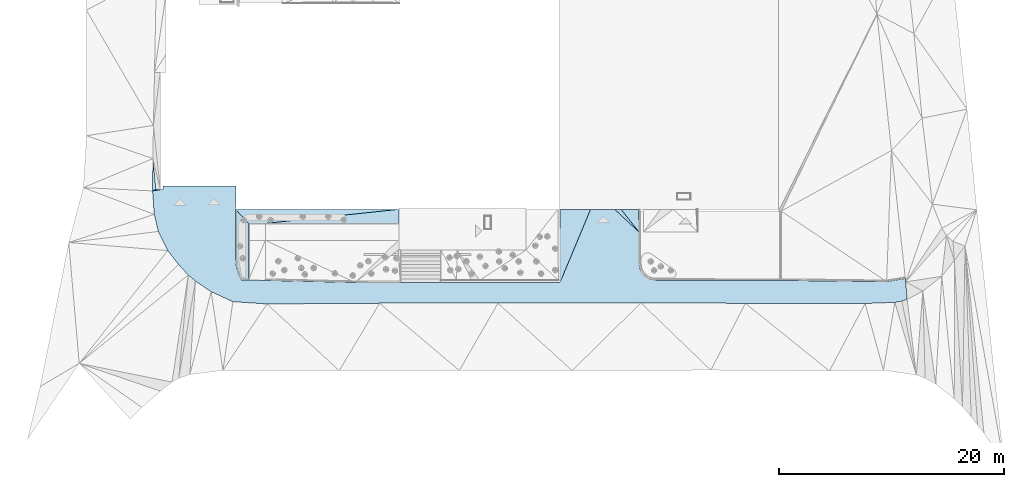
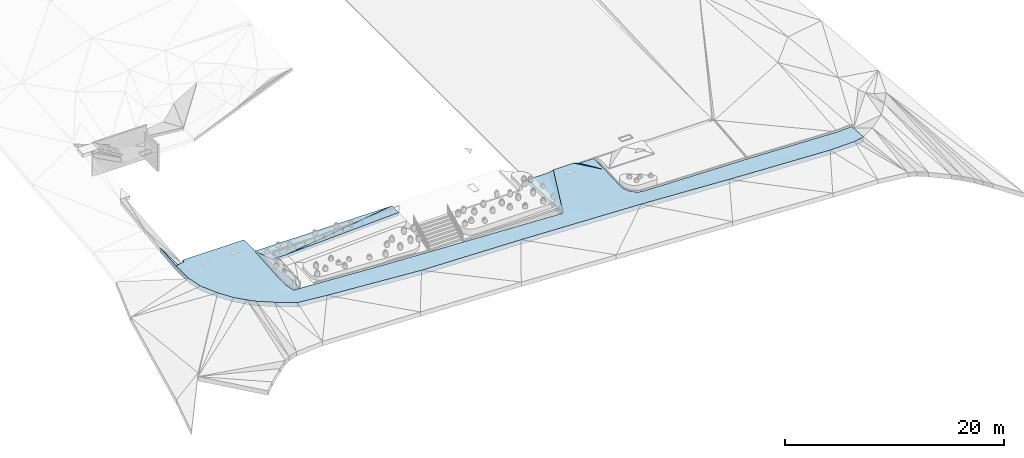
# One storey, part 14 of 23: 2 slabs.
"""IFC2X3 building model written with IfcOpenShell, lengths in metres."""

from ifc_helpers import new_model, entity, si_unit, converted_unit, direction, origin, place, context, subcontext, project, spatial, faceted_brep, material, material_list, type_object, element, save


model = new_model("IFC2X3")

# Units and contexts
model_context = context("Model", 3, precision=1e-05, world=origin(), true_north=direction((0.7716245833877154, 0.6360782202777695)))
body_context = subcontext(model_context, "Body", "Model", "MODEL_VIEW")
ifc_project = project(units=[si_unit("LENGTHUNIT", "METRE"), converted_unit("PLANEANGLEUNIT", "DEGREE", entity("IfcPlaneAngleMeasure", 0.017453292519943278), si_unit("PLANEANGLEUNIT", "RADIAN"), dimensions=[0, 0, 0, 0, 0, 0, 0]), si_unit("AREAUNIT", "SQUARE_METRE")], contexts=[model_context])

# Site, building, storey
site_placement = place(None, origin())
site = spatial("IfcSite", under=ifc_project, at=site_placement, Name="Default", CompositionType="ELEMENT")
building_placement = place(site_placement, origin())
building = spatial("IfcBuilding", under=site, at=building_placement, Name="<Building Name>", CompositionType="ELEMENT")
storey_placement = place(building_placement, origin())
storey = spatial("IfcBuildingStorey", under=building, at=storey_placement, Name="00 - HAV", CompositionType="ELEMENT", Elevation=0.0)

# Slabs
ifc_material_1 = material(Name="Site - Aspahlt - Pulverasfalt")
ifc_material_2 = material(Name="A_Default_Building_Part")
ifc_material_3 = material(Name="Site - Gravel - Stabilitet grus")
ifc_material_4 = material(Name="Site - Gravel - Bunnsikringsgrus")
ifc_material_list_1 = material_list([ifc_material_1, ifc_material_2, ifc_material_3, ifc_material_4])
slab_type_1 = type_object("IfcSlabType", Name="Floor:761 Asfalt - Gangarealer", PredefinedType="FLOOR")
slab_1_placement = place(storey_placement, origin())
element("IfcSlab", 1, at=slab_1_placement, inside=storey, type_object=slab_type_1, material=ifc_material_list_1, Name="Floor:761 Asfalt - Gangarealer", ObjectType="Floor:761 Asfalt - Gangarealer", PredefinedType="FLOOR", context=body_context, shape_type="Brep", body=[
    faceted_brep([(258.5774475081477, 53.19359115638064, 30.512000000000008), (258.5774475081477, 46.710732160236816, 30.690291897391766), (258.5774475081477, 46.710732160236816, 31.190291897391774), (258.5774475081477, 53.19359115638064, 31.012000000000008), (261.2809782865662, 53.193591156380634, 30.640000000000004), (260.7068498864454, 53.193591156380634, 30.48251479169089), (260.7068498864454, 53.193591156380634, 30.982514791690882), (261.2809782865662, 53.193591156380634, 31.139999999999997), (263.4158263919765, 53.19359115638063, 31.139999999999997), (263.98909597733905, 53.19359115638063, 30.937066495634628), (265.5529070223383, 53.19359115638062, 30.90987334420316), (265.5529070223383, 53.19359115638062, 30.40987334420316), (263.98909597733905, 53.19359115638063, 30.437066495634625), (263.4158263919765, 53.19359115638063, 30.64), (277.93141178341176, 46.883054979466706, 29.799999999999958), (267.06103938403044, 46.891797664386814, 30.02871926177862), (267.06103938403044, 46.891797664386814, 30.528719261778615), (277.93141178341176, 46.883054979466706, 30.29999999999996), (287.56061446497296, 46.77280201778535, 29.57), (287.56061446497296, 46.77280201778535, 30.07), (289.2292083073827, 47.05967235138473, 29.409999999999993), (289.2292083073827, 47.05967235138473, 29.909999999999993), (289.38313046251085, 45.19076679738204, 29.34), (289.38313046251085, 45.19076679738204, 29.84), (288.9214053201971, 45.043424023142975, 29.349999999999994), (288.9214053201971, 45.043424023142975, 29.849999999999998), (288.2921113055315, 44.92642384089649, 29.35), (288.2921113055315, 44.92642384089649, 29.849999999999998), (285.6476137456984, 44.832975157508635, 29.369999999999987), (285.6476137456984, 44.832975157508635, 29.86999999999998), (275.0217588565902, 44.84739296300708, 29.819999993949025), (275.0217588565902, 44.84739296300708, 30.31999999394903), (265.7481317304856, 44.88788903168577, 30.279999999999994), (265.7481317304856, 44.88788903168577, 30.77999999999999), (253.0580648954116, 44.85953958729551, 30.769999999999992), (253.0580648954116, 44.85953958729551, 31.269999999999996), (242.55118701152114, 44.85539743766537, 31.03999999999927), (242.55118701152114, 44.85539743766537, 31.53999999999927), (232.54972667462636, 44.788381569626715, 32.289999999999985), (232.54972667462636, 44.788381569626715, 31.78999999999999), (229.52910989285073, 44.99398861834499, 31.90999999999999), (229.52910989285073, 44.99398861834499, 32.40999999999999), (227.59658962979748, 45.87623882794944, 32.08999999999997), (227.59658962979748, 45.87623882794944, 32.58999999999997), (227.42324594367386, 45.994158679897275, 32.59374999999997), (227.2499022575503, 46.11207853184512, 32.597499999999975), (227.07655857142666, 46.22999838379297, 32.60124999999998), (226.9032148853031, 46.34791823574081, 32.60499999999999), (226.7298711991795, 46.465838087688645, 32.608749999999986), (226.55652751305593, 46.58375793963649, 32.61249999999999), (226.3681071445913, 46.71193394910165, 32.61657615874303), (226.2098401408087, 46.81959764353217, 32.62), (226.2098401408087, 46.81959764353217, 32.120000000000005), (226.3831838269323, 46.70167779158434, 32.11625), (226.55652751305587, 46.58375793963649, 32.1125), (226.7298711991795, 46.465838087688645, 32.10874999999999), (226.9032148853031, 46.34791823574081, 32.10499999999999), (227.0765585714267, 46.22999838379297, 32.101249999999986), (227.2499022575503, 46.11207853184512, 32.097499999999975), (227.4383226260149, 45.983902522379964, 32.09342384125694), (225.56615153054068, 47.36463431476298, 32.16), (225.56615153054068, 47.36463431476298, 32.66), (224.697957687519, 48.30778830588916, 32.160000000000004), (224.697957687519, 48.30778830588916, 32.66000000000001), (223.74290142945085, 49.52924953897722, 32.28), (223.74290142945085, 49.52924953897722, 32.779999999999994), (240.3702786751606, 46.6992626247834, 31.50999999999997), (230.25794446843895, 46.93705425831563, 31.874074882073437), (230.25794446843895, 46.93705425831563, 32.37407488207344), (240.3702786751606, 46.6992626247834, 32.00999999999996), (229.76792444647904, 48.855397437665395, 32.25218759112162), (229.76792444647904, 53.032163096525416, 32.587176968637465), (229.76792444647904, 53.46525555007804, 32.6), (229.76792444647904, 53.46525555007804, 33.1), (229.76792444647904, 53.032163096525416, 33.087176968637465), (229.76792444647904, 48.855397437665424, 32.75218759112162), (229.8446483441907, 48.306754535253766, 32.647156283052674), (229.8663514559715, 47.97350844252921, 32.08413749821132), (229.84174671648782, 48.193981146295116, 32.126150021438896), (229.8171379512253, 48.414452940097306, 32.168162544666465), (229.79320001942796, 48.62893900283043, 32.20903432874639), (230.06214796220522, 47.455281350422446, 31.97910619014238), (229.9213722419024, 47.75811163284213, 32.542124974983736), (230.0032326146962, 47.558421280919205, 32.501253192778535), (230.08965835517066, 47.34758294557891, 32.45809992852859), (230.17151740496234, 47.14789221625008, 32.41722814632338), (229.8062870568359, 48.58107617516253, 32.699671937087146), (230.0132005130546, 47.58483850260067, 32.005364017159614), (230.16004688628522, 47.196167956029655, 31.926590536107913), (229.86383097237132, 48.169594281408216, 32.62089845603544), (227.48898329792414, 47.551474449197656, 32.66752187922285), (229.30117844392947, 46.555687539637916, 32.451700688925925), (228.79416511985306, 46.66790255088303, 32.51348754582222), (228.7888349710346, 46.50420802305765, 32.50208753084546), (228.43487140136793, 47.07579126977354, 32.57857427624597), (228.0523409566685, 47.047817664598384, 32.59871750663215), (228.05986421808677, 47.28723700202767, 32.621071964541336), (228.65814539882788, 47.024628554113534, 32.55743815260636), (228.6774916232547, 46.768936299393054, 32.53207358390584), (228.30235043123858, 47.58945328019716, 32.64293497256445), (228.1883138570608, 47.78945317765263, 32.67272186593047), (230.0850903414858, 47.35873017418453, 32.46038141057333), (229.88301227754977, 48.03243365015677, 32.59464062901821), (265.29996396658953, 45.00181672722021, 30.80564324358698), (264.85179620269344, 45.11574442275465, 30.831286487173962), (264.4036284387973, 45.229672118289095, 30.85692973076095), (263.9554606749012, 45.34359981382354, 30.882572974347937), (263.50729291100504, 45.45752750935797, 30.90821621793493), (263.0591251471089, 45.571455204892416, 30.933859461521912), (262.6109573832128, 45.68538290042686, 30.959502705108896), (262.16278961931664, 45.799310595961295, 30.98514594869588), (261.71462185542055, 45.91323829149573, 31.010789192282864), (261.26645409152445, 46.02716598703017, 31.036432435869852), (260.81828632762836, 46.141093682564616, 31.062075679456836), (260.3701185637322, 46.25502137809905, 31.087718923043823), (259.9219507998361, 46.368949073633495, 31.11336216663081), (259.47378303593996, 46.48287676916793, 31.139005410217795), (259.02561527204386, 46.59680446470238, 31.164648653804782), (266.40458555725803, 45.8898433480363, 30.65435963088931), (228.48878128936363, 48.12352063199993, 32.20466571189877), (228.55335565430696, 46.257605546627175, 32.01237419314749), (228.21280436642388, 46.89547433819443, 32.076617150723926), (229.96425172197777, 47.714395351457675, 32.031621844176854), (227.95253354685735, 47.66284905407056, 32.166476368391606), (228.18260408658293, 47.62908921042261, 32.15332134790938), (228.4305280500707, 46.76733662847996, 32.051547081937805), (228.80038523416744, 46.76965361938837, 32.02145892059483), (228.93679435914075, 46.56859258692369, 31.9920483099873), (228.47392060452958, 47.36107184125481, 32.10655539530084), (228.37386620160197, 47.147275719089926, 32.08966017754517), (228.227312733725, 47.497268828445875, 32.13577783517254), (259.02561527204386, 46.59680446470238, 30.664648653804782), (259.47378303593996, 46.48287676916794, 30.6390054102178), (259.9219507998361, 46.368949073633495, 30.61336216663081), (260.3701185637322, 46.25502137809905, 30.58771892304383), (260.81828632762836, 46.141093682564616, 30.562075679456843), (261.26645409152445, 46.02716598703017, 30.536432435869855), (261.71462185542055, 45.91323829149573, 30.510789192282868), (262.16278961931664, 45.799310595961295, 30.485145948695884), (262.6109573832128, 45.68538290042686, 30.459502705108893), (263.0591251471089, 45.571455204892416, 30.433859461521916), (263.50729291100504, 45.45752750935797, 30.40821621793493), (263.9554606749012, 45.34359981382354, 30.38257297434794), (264.4036284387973, 45.229672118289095, 30.356929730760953), (264.8517962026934, 45.11574442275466, 30.33128648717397), (265.29996396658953, 45.00181672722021, 30.30564324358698), (266.40458555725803, 45.8898433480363, 30.15435963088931), (223.3179244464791, 50.398601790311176, 32.28511484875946), (223.3179244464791, 50.398601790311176, 32.78511484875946), (222.91203232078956, 51.228913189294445, 32.79), (222.91203232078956, 51.228913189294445, 32.28999999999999), (222.54622752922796, 52.74172079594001, 32.350000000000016), (222.54622752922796, 52.74172079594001, 32.850000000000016), (222.39856030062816, 54.82313723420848, 32.53999999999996), (222.39856030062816, 54.82313723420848, 33.03999999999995), (222.4266936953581, 57.69745602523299, 32.78), (222.4266936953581, 57.69745602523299, 33.28), (222.6918950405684, 54.972793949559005, 32.5), (222.6918950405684, 54.972793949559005, 33.0), (223.3179244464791, 55.25779394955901, 32.6), (223.3179244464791, 54.972793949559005, 32.599999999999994), (223.3179244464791, 54.972793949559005, 33.1), (223.3179244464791, 55.25779394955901, 33.1), (229.81919729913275, 55.25779394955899, 32.6), (229.81919729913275, 55.25779394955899, 33.1), (229.8209588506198, 53.46525555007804, 32.6), (229.8209588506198, 53.46525555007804, 33.1), (265.5877261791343, 51.19155733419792, 30.400000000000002), (265.5877261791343, 51.19155733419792, 30.900000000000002), (265.562245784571, 51.19155265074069, 30.37010664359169), (265.562245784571, 51.19155265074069, 30.87010664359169), (265.562245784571, 48.391797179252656, 30.25533562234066), (265.562245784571, 48.39179717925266, 30.755335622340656), (265.6248913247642, 48.0363174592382, 30.720423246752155), (265.65260854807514, 47.87903713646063, 30.204976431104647), (265.6316254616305, 47.9980825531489, 30.2166682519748), (266.54835218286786, 46.98257279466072, 30.57907845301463), (266.70561016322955, 46.95472908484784, 30.063631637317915), (266.6765226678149, 46.95987540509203, 30.066488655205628), (266.0011591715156, 47.331563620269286, 30.642027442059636), (266.0011591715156, 47.331563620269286, 30.142027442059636), (265.91402031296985, 47.468431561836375, 30.157764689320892), (265.60742716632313, 48.13541715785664, 30.230156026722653), (265.5864464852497, 48.25446344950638, 30.7418478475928), (265.6106471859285, 48.117129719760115, 30.728360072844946), (265.65260854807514, 47.87903713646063, 30.704976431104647), (265.7397462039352, 47.74216875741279, 30.689239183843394), (265.8268838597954, 47.60530037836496, 30.67350193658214), (265.8268838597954, 47.60530037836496, 30.17350193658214), (265.73974259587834, 47.742167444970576, 30.189239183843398), (265.9140203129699, 47.46843156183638, 30.657764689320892), (266.8046957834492, 46.93718522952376, 30.55389885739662), (266.93286714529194, 46.91449024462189, 30.541309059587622), (266.6765226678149, 46.95987540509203, 30.566488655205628), (266.1379574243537, 47.24431591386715, 30.626290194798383), (266.2747556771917, 47.157068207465, 30.610552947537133), (266.2747556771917, 47.157068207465, 30.110552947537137), (266.93286714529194, 46.91449024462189, 30.041309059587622), (266.80469490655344, 46.93718282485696, 30.053898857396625), (266.1379569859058, 47.24431471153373, 30.126290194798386), (266.4115526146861, 47.06981689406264, 30.594815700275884), (265.5864464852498, 48.25446344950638, 30.241847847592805), (265.6316254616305, 47.99808255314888, 30.716668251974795), (266.54835218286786, 46.98257279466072, 30.07907845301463), (266.4115526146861, 47.06981689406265, 30.09481570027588), (261.8207485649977, 47.491313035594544, 30.988325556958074), (264.98122676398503, 46.16088974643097, 30.754575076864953), (265.2766962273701, 46.08497759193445, 30.73425455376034), (263.61029531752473, 46.713194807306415, 30.84867800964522), (262.7405013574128, 47.04318083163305, 30.91436045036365), (262.9704620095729, 46.91982703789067, 30.896723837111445), (265.79091383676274, 46.07618874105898, 30.692102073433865), (263.2795388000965, 46.81054994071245, 30.873512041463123), (262.32975739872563, 47.333129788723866, 30.948504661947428), (262.7502236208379, 47.253218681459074, 30.916337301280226), (264.45545045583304, 46.385244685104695, 30.788282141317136), (264.7045919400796, 46.266597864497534, 30.77242564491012), (266.09850378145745, 46.0353651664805, 30.669183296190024), (264.21789553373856, 46.51264201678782, 30.803831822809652), (263.89411440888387, 46.60291864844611, 30.82789780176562), (261.8207485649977, 47.49131303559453, 30.488325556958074), (265.2766962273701, 46.084977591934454, 30.23425455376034), (264.98122676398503, 46.160889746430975, 30.25457507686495), (263.61029531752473, 46.713194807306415, 30.34867800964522), (262.9704620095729, 46.91982703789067, 30.39672383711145), (262.7405013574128, 47.04318083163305, 30.41436045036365), (265.79091383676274, 46.07618874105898, 30.19210207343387), (263.2795388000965, 46.81054994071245, 30.373512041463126), (262.7502236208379, 47.25321868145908, 30.416337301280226), (262.32975739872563, 47.33312978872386, 30.44850466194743), (264.45545045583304, 46.385244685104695, 30.288282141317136), (264.7045919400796, 46.266597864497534, 30.27242564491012), (266.0985037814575, 46.0353651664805, 30.169183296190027), (265.6106471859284, 48.117129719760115, 30.228360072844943), (264.21789553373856, 46.51264201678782, 30.303831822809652), (263.89411440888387, 46.602918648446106, 30.327897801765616)], [[[0, 1, 2, 3]], [[4, 5, 0, 3, 6, 7, 8, 9, 10, 11, 12, 13]], [[14, 15, 16, 17]], [[18, 14, 17, 19]], [[20, 18, 19, 21]], [[22, 20, 21, 23]], [[24, 22, 23, 25]], [[26, 24, 25, 27]], [[28, 26, 27, 29]], [[30, 28, 29, 31]], [[32, 30, 31, 33]], [[34, 32, 33, 35]], [[36, 34, 35, 37]], [[36, 37, 38, 39]], [[40, 39, 38, 41]], [[42, 40, 41, 43]], [[43, 44, 45, 46, 47, 48, 49, 50, 51, 52, 53, 54, 55, 56, 57, 58, 59, 42]], [[60, 52, 51, 61]], [[62, 60, 61, 63]], [[64, 62, 63, 65]], [[66, 67, 68, 69]], [[2, 1, 66, 69]], [[70, 71, 72, 73, 74, 75]], [[76, 77, 78]], [[75, 79, 80]], [[81, 82, 83]], [[67, 84, 85]], [[79, 75, 86]], [[82, 81, 87]], [[84, 67, 88]], [[77, 76, 89]], [[61, 51, 90, 75]], [[41, 68, 91, 43]], [[41, 38, 68]], [[63, 61, 75]], [[92, 85, 84]], [[68, 85, 93]], [[47, 94, 95]], [[93, 43, 91, 68]], [[96, 48, 95]], [[83, 97, 98]], [[45, 92, 98]], [[96, 99, 49]], [[45, 44, 92]], [[100, 90, 50]], [[99, 50, 49]], [[94, 47, 46]], [[96, 95, 89]], [[100, 75, 90]], [[90, 51, 50]], [[93, 85, 92]], [[92, 101, 98]], [[93, 92, 44]], [[43, 93, 44]], [[97, 83, 82]], [[98, 101, 83]], [[94, 46, 97]], [[46, 45, 98]], [[97, 82, 94]], [[98, 97, 46]], [[82, 102, 94]], [[47, 95, 48]], [[94, 102, 95]], [[95, 102, 89]], [[89, 76, 96]], [[99, 96, 76]], [[49, 48, 96]], [[76, 86, 99]], [[99, 86, 100]], [[99, 100, 50]], [[75, 100, 86]], [[69, 68, 38]], [[37, 69, 38]], [[69, 37, 35]], [[35, 33, 103, 104, 105, 106, 107, 108, 109, 110, 111, 112, 113, 114, 115, 116, 117, 2]], [[31, 29, 17]], [[19, 27, 25]], [[29, 27, 19]], [[31, 16, 118, 33]], [[25, 23, 21]], [[69, 35, 2]], [[16, 31, 17]], [[25, 21, 19]], [[17, 29, 19]], [[60, 70, 119, 52]], [[40, 42, 120, 67]], [[67, 39, 40]], [[70, 60, 62]], [[87, 121, 122]], [[80, 123, 70]], [[124, 123, 80]], [[120, 42, 59]], [[125, 81, 126]], [[120, 59, 127]], [[55, 128, 129]], [[124, 79, 130]], [[80, 79, 124]], [[126, 127, 59]], [[130, 54, 124]], [[67, 127, 88]], [[123, 52, 119, 70]], [[53, 124, 54]], [[53, 52, 123]], [[53, 123, 124]], [[55, 54, 130]], [[55, 130, 128]], [[77, 128, 78]], [[129, 121, 56]], [[130, 79, 78]], [[129, 128, 77]], [[78, 128, 130]], [[57, 121, 125]], [[56, 55, 129]], [[57, 56, 121]], [[129, 77, 122]], [[126, 58, 125]], [[121, 129, 122]], [[87, 81, 125]], [[87, 125, 121]], [[125, 58, 57]], [[58, 126, 59]], [[126, 81, 88]], [[120, 127, 67]], [[88, 127, 126]], [[39, 67, 66]], [[39, 66, 36]], [[34, 36, 66]], [[34, 1, 131, 132, 133, 134, 135, 136, 137, 138, 139, 140, 141, 142, 143, 144, 145, 32]], [[14, 28, 30]], [[24, 26, 18]], [[18, 26, 28]], [[30, 32, 146, 15]], [[20, 22, 24]], [[1, 34, 66]], [[14, 30, 15]], [[18, 20, 24]], [[18, 28, 14]], [[147, 64, 65, 148, 149, 150]], [[151, 150, 149, 152]], [[153, 151, 152, 154]], [[155, 153, 154, 156]], [[157, 155, 156, 158]], [[159, 160, 161, 162]], [[163, 159, 162, 164]], [[165, 163, 164, 166]], [[72, 165, 166, 73]], [[63, 74, 65]], [[63, 75, 74]], [[74, 73, 161]], [[64, 71, 62]], [[71, 70, 62]], [[160, 72, 71]], [[162, 161, 73, 166, 164]], [[163, 165, 72, 160, 159]], [[160, 157, 158, 161]], [[154, 161, 158]], [[161, 154, 152]], [[156, 154, 158]], [[161, 152, 149]], [[74, 161, 149]], [[65, 74, 149, 148]], [[157, 160, 153]], [[151, 153, 160]], [[157, 153, 155]], [[150, 151, 160]], [[150, 160, 71]], [[147, 150, 71, 64]], [[167, 11, 10, 168]], [[6, 3, 2]], [[1, 0, 5]], [[2, 7, 6]], [[5, 4, 1]], [[169, 167, 168, 170]], [[171, 169, 170, 172]], [[173, 174, 175]], [[176, 177, 178]], [[179, 180, 181]], [[182, 172, 183, 184]], [[185, 186, 174]], [[186, 187, 188]], [[186, 188, 189]], [[188, 187, 190]], [[15, 191, 192]], [[177, 176, 193]], [[179, 194, 180]], [[195, 196, 194]], [[191, 15, 197, 198]], [[194, 196, 199]], [[196, 195, 200]], [[172, 182, 201]], [[174, 173, 202]], [[176, 203, 204]], [[170, 8, 7]], [[170, 10, 9]], [[4, 13, 169]], [[12, 11, 169]], [[7, 2, 205, 172]], [[10, 170, 168]], [[8, 170, 9]], [[206, 207, 176]], [[208, 112, 111]], [[106, 206, 107]], [[185, 209, 210]], [[209, 114, 210]], [[176, 200, 206]], [[207, 105, 211]], [[112, 208, 212]], [[213, 116, 214]], [[194, 215, 195]], [[216, 108, 107]], [[216, 215, 108]], [[210, 114, 113]], [[186, 210, 212]], [[211, 104, 217]], [[216, 200, 195]], [[217, 191, 211]], [[214, 116, 115]], [[183, 172, 205]], [[214, 184, 213]], [[209, 214, 115]], [[209, 202, 214]], [[216, 107, 206]], [[112, 212, 113]], [[109, 218, 110]], [[215, 216, 195]], [[218, 194, 179]], [[218, 109, 215]], [[187, 208, 190]], [[109, 108, 215]], [[186, 212, 187]], [[219, 190, 208]], [[212, 208, 187]], [[111, 219, 208]], [[206, 106, 207]], [[219, 110, 218]], [[216, 206, 200]], [[207, 106, 105]], [[207, 193, 176]], [[105, 104, 211]], [[211, 193, 207]], [[191, 193, 211]], [[104, 103, 217]], [[217, 118, 192]], [[103, 118, 217]], [[212, 210, 113]], [[185, 210, 186]], [[194, 218, 215]], [[115, 114, 209]], [[117, 205, 2]], [[202, 209, 185]], [[205, 213, 183]], [[117, 116, 213]], [[213, 184, 183]], [[117, 213, 205]], [[192, 191, 217]], [[214, 202, 173]], [[179, 190, 219]], [[110, 219, 111]], [[179, 219, 218]], [[118, 103, 33]], [[16, 192, 118]], [[4, 171, 220, 1]], [[167, 169, 11]], [[12, 169, 13]], [[203, 221, 222]], [[137, 136, 223]], [[141, 222, 142]], [[224, 225, 174]], [[224, 134, 225]], [[222, 204, 203]], [[226, 143, 221]], [[227, 223, 136]], [[228, 132, 229]], [[196, 230, 199]], [[141, 140, 231]], [[140, 230, 231]], [[135, 134, 224]], [[227, 224, 189]], [[232, 144, 226]], [[196, 204, 231]], [[226, 198, 232]], [[133, 132, 228]], [[220, 171, 201]], [[229, 233, 228]], [[133, 228, 225]], [[228, 175, 225]], [[222, 141, 231]], [[135, 227, 136]], [[138, 234, 139]], [[196, 231, 230]], [[180, 199, 234]], [[230, 139, 234]], [[181, 223, 188]], [[230, 140, 139]], [[188, 227, 189]], [[223, 181, 235]], [[188, 223, 227]], [[223, 235, 137]], [[221, 142, 222]], [[234, 138, 235]], [[204, 222, 231]], [[143, 142, 221]], [[203, 178, 221]], [[226, 144, 143]], [[221, 178, 226]], [[226, 178, 177]], [[232, 145, 144]], [[197, 146, 232]], [[232, 146, 145]], [[135, 224, 227]], [[189, 224, 174]], [[230, 234, 199]], [[225, 134, 133]], [[1, 220, 131]], [[174, 225, 175]], [[201, 229, 220]], [[229, 132, 131]], [[229, 201, 182]], [[220, 229, 131]], [[232, 198, 197]], [[228, 233, 175]], [[235, 181, 180]], [[137, 235, 138]], [[234, 235, 180]], [[32, 145, 146]], [[146, 197, 15]], [[7, 172, 170]], [[169, 171, 4]], [[76, 78, 79]], [[75, 80, 70]], [[81, 83, 101]], [[81, 101, 84]], [[67, 85, 68]], [[79, 86, 76]], [[82, 87, 122]], [[82, 122, 77]], [[84, 88, 81]], [[77, 89, 102]], [[77, 102, 82]], [[92, 84, 101]], [[173, 175, 233]], [[173, 233, 182]], [[176, 178, 203]], [[179, 181, 188]], [[182, 184, 173]], [[186, 189, 174]], [[188, 190, 179]], [[15, 192, 16]], [[177, 193, 191]], [[191, 198, 177]], [[194, 199, 180]], [[196, 200, 176]], [[172, 201, 171]], [[174, 202, 185]], [[176, 204, 196]], [[214, 173, 184]], [[226, 177, 198]], [[229, 182, 233]]]),
])
ifc_material_5 = material(Name="815 - Terrain, Grøntareal")
ifc_material_6 = material(Name="Site - Soil - Jordlag")
ifc_material_list_2 = material_list([ifc_material_5, ifc_material_6])
slab_type_2 = type_object("IfcSlabType", Name="Floor:771 Grøntarealer", PredefinedType="FLOOR")
slab_2_placement = place(storey_placement, origin())
element("IfcSlab", 2, at=slab_2_placement, inside=storey, type_object=slab_type_2, material=ifc_material_list_2, Name="Floor:771 Grøntarealer", ObjectType="Floor:771 Grøntarealer", PredefinedType="FLOOR", context=body_context, shape_type="Brep", body=[
    faceted_brep([(230.91792444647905, 51.942222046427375, 32.230000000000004), (232.41792444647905, 51.94222204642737, 32.230000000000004), (244.25315234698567, 51.942222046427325, 32.78), (244.25315234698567, 51.942222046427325, 33.1), (232.41792444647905, 51.94222204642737, 32.550000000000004), (230.91792444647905, 51.942222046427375, 32.55), (230.91792444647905, 49.59790547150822, 32.23089636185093), (230.91792444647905, 49.59790547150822, 32.55089636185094), (230.91792444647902, 49.25458194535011, 32.52455630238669), (230.91792444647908, 48.92881280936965, 32.49956302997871), (230.91792444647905, 48.59426647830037, 32.473896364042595), (230.91792444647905, 48.259720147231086, 32.44822969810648), (230.91792444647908, 47.92517381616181, 32.422563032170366), (230.91792444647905, 47.59062748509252, 32.39689636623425), (230.91792444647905, 47.25608115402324, 32.37122970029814), (230.91792444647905, 46.92153482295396, 32.34556303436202), (230.91792444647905, 46.92153482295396, 32.02556303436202), (230.91792444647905, 47.25608115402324, 32.05122970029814), (230.91792444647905, 47.590627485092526, 32.07689636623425), (230.91792444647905, 47.92517381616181, 32.10256303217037), (230.91792444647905, 48.259720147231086, 32.12822969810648), (230.91792444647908, 48.594266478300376, 32.1538963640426), (230.91792444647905, 48.92881280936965, 32.17956302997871), (230.91792444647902, 49.263359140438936, 32.20522969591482), (230.6845862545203, 46.927021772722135, 32.355643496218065), (230.4912826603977, 46.93156730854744, 32.363994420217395), (230.25794446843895, 46.93705425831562, 32.37407488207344), (230.25794446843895, 46.93705425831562, 32.05407488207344), (230.4912826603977, 46.93156730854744, 32.043994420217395), (230.70460355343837, 46.9265510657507, 32.03477872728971), (229.9612759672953, 47.671564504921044, 32.19475448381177), (230.0588526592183, 47.357803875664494, 32.45), (229.99961737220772, 47.56846604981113, 32.49316965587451), (229.86369927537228, 47.98532513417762, 32.259508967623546), (229.94038028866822, 47.77912792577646, 32.53633931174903), (229.8811467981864, 47.989790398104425, 32.57950896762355), (229.76792444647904, 48.855397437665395, 32.43218759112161), (229.79491618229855, 48.527924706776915, 32.68743310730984), (229.78408379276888, 48.65936009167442, 32.71342311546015), (230.00044062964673, 47.54563307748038, 32.168764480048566), (229.79186904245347, 48.63787955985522, 32.3890179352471), (229.90286571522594, 47.85939410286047, 32.23351896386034), (229.8219079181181, 48.20045197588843, 32.62267862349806), (229.81581186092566, 48.42036128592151, 32.34584827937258), (229.8397582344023, 48.20284380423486, 32.30267862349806), (229.81107732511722, 48.33188765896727, 32.648668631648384), (229.76792444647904, 48.855397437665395, 32.75218759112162), (229.76792444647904, 53.192045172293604, 33.1), (229.76792444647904, 53.192045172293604, 32.78), (244.25315234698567, 53.18767166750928, 32.78), (244.25315234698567, 53.18767166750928, 33.1), (230.12130867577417, 49.083563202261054, 32.69033268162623), (230.12130867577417, 49.083563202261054, 32.37033268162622), (230.18614480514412, 47.07470807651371, 32.07938325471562), (230.20612628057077, 47.041282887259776, 32.393056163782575), (230.1197623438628, 47.214997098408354, 32.42469162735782), (230.0588526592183, 47.35780387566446, 32.129999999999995), (230.10658732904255, 47.25164300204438, 32.11101871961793), (230.46604022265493, 47.520190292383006, 32.44194170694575), (230.4339306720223, 47.72250645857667, 32.46751996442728), (230.43207181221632, 48.320360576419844, 32.531655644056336), (230.36265288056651, 48.62308389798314, 32.57727109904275), (230.34820223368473, 48.828438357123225, 32.60354578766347), (230.35475835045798, 49.04115749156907, 32.626700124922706), (230.47133764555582, 47.322046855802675, 32.41967733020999), (230.38624841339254, 48.10057873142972, 32.515310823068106), (230.2972800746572, 47.909515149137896, 32.506483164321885), (229.80024313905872, 48.46332274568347, 32.6746586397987), (230.32283729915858, 47.22374251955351, 32.417907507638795), (230.36258042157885, 47.20355946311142, 32.41307595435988), (230.64025243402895, 47.06254714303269, 32.37931949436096), (230.45570709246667, 47.381476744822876, 32.10768803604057), (230.32283729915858, 47.22374251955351, 32.097907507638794), (230.4235738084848, 47.78453976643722, 32.15555593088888), (230.42608001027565, 47.57497527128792, 32.132220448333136), (229.94202860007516, 47.73346227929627, 32.207528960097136), (230.40623085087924, 47.9872168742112, 32.17995159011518), (230.43207181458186, 48.320360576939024, 32.211655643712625), (230.35389391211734, 49.04237703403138, 32.307043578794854), (230.37990163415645, 48.84662780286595, 32.278853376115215), (230.37252246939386, 48.637656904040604, 32.25697249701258), (230.6141966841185, 47.075779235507, 32.062487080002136), (230.36258042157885, 47.20355946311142, 32.09307595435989)], [[[0, 1, 2, 3, 4, 5]], [[6, 0, 5, 7, 8, 9, 10, 11, 12, 13, 14, 15, 16, 17, 18, 19, 20, 21, 22, 23]], [[15, 24, 25, 26, 27, 28, 29, 16]], [[30, 31, 32]], [[33, 34, 35]], [[36, 37, 38]], [[31, 30, 39]], [[37, 36, 40]], [[34, 33, 41]], [[42, 43, 44]], [[43, 42, 45]], [[36, 46, 47, 48]], [[49, 48, 47, 50]], [[2, 49, 50, 3]], [[47, 46, 5]], [[0, 36, 48]], [[47, 5, 4]], [[1, 0, 48]], [[5, 46, 51, 7]], [[0, 6, 52, 36]], [[26, 53, 27]], [[53, 26, 54]], [[55, 31, 56]], [[55, 56, 57]], [[14, 13, 58]], [[34, 58, 59]], [[45, 60, 61]], [[60, 45, 42]], [[62, 8, 63]], [[64, 14, 58]], [[9, 62, 61]], [[12, 65, 66]], [[62, 9, 8]], [[7, 51, 63]], [[62, 67, 61]], [[62, 38, 37]], [[38, 51, 46]], [[63, 38, 62]], [[61, 67, 45]], [[10, 60, 11]], [[10, 9, 61]], [[7, 63, 8]], [[38, 63, 51]], [[34, 32, 58]], [[58, 13, 59]], [[64, 31, 68, 69, 70, 15]], [[15, 14, 64]], [[32, 31, 64]], [[32, 64, 58]], [[65, 11, 60]], [[65, 60, 42]], [[59, 13, 12]], [[59, 66, 34]], [[61, 60, 10]], [[65, 42, 35]], [[66, 65, 35]], [[12, 11, 65]], [[34, 66, 35]], [[12, 66, 59]], [[55, 70, 69, 68, 31]], [[24, 54, 26, 25]], [[15, 70, 24]], [[24, 55, 54]], [[55, 24, 70]], [[71, 72, 39]], [[73, 74, 75]], [[76, 77, 20]], [[78, 40, 36]], [[39, 72, 56]], [[79, 40, 78]], [[19, 18, 73]], [[23, 22, 79]], [[73, 41, 76]], [[76, 19, 73]], [[71, 39, 74]], [[18, 74, 73]], [[74, 39, 30]], [[74, 17, 71]], [[76, 20, 19]], [[74, 18, 17]], [[71, 17, 16]], [[80, 77, 44]], [[21, 20, 77]], [[33, 77, 76]], [[22, 80, 79]], [[43, 79, 80]], [[78, 36, 52, 6]], [[23, 79, 78]], [[40, 79, 43]], [[23, 78, 6]], [[43, 80, 44]], [[80, 22, 21]], [[21, 77, 80]], [[33, 44, 77]], [[33, 76, 41]], [[73, 75, 41]], [[71, 16, 81, 82, 72]], [[81, 16, 29]], [[53, 57, 81]], [[29, 28, 27, 53]], [[57, 56, 72, 82, 81]], [[53, 81, 29]], [[3, 50, 4]], [[47, 4, 50]], [[1, 49, 2]], [[49, 1, 48]], [[30, 32, 34]], [[33, 35, 42]], [[36, 38, 46]], [[31, 39, 56]], [[37, 40, 43]], [[34, 41, 75]], [[34, 75, 30]], [[42, 44, 33]], [[43, 45, 67]], [[43, 67, 37]], [[53, 54, 55]], [[55, 57, 53]], [[62, 37, 67]], [[74, 30, 75]]]),
])

save(model, "model.ifc")
